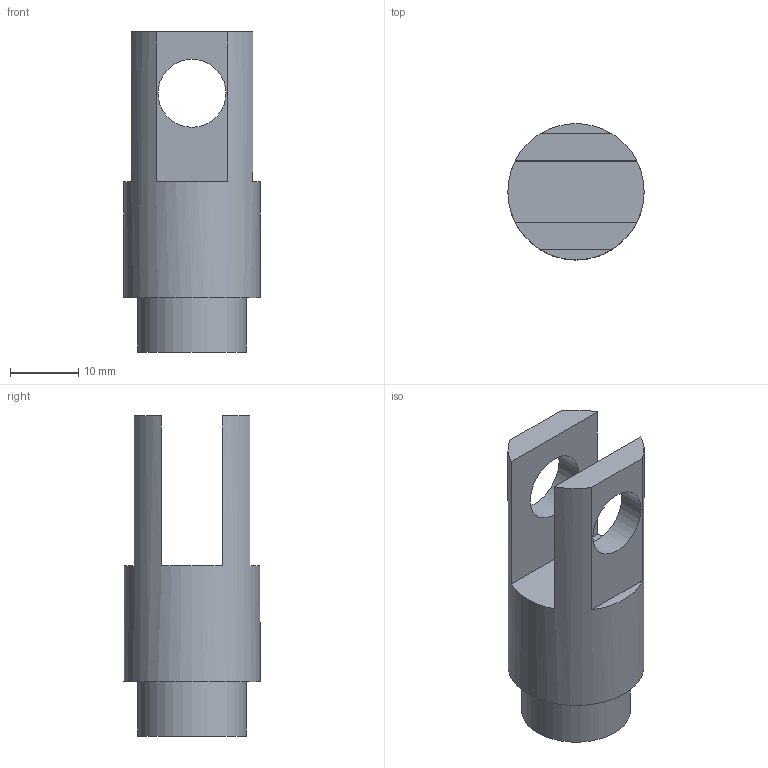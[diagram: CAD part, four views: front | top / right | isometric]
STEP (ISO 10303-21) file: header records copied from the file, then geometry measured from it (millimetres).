
FILE_DESCRIPTION(/* description */ ('Unknown'),/* implementation_level */ '2;1');
FILE_NAME(/* name */ 'WK20_Y',/* time_stamp */ '2026-07-17T16:39:49+08:00',/* author */ ('Unknown'),/* organization */ ('Unknown'),/* preprocessor_version */ 'ST-DEVELOPER v16.7',/* originating_system */ 'DEX',/* authorisation */ $);
FILE_SCHEMA (('CONFIG_CONTROL_DESIGN'));
Length unit declared in the file: millimetre
Products named in the file (1): WK20_Y
Bounding box: 20 x 20 x 47 mm (x, y, z)
Volume: 8261 mm3; surface area: 4159.1 mm2
Topology: 1 solids, 1 shells, 17 faces, 44 edges, 30 vertices
Faces by surface type: plane 11, cylinder 5, cone 1
Full cylindrical faces by diameter (mm): 6.8 x1, 10 x2, 16 x1, 20 x1
Entity records: 611 total; most frequent: DIRECTION 86, CARTESIAN_POINT 77, ORIENTED_EDGE 66, AXIS2_PLACEMENT_3D 35, EDGE_CURVE 33, FACE_BOUND 29, EDGE_LOOP 28, VERTEX_POINT 26
